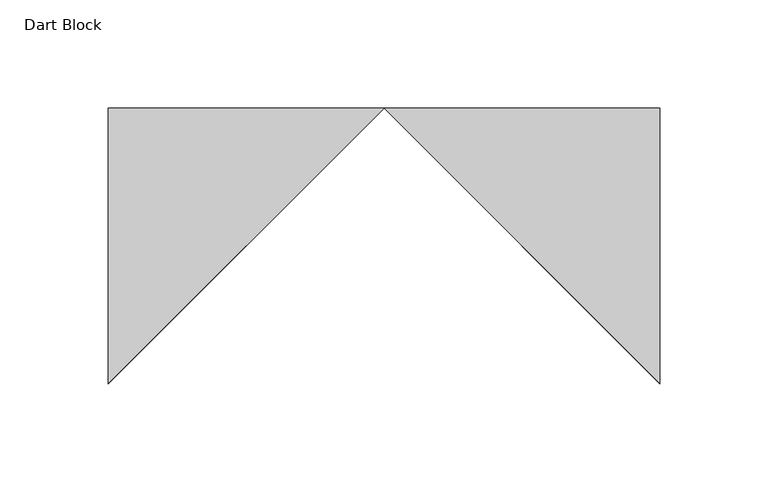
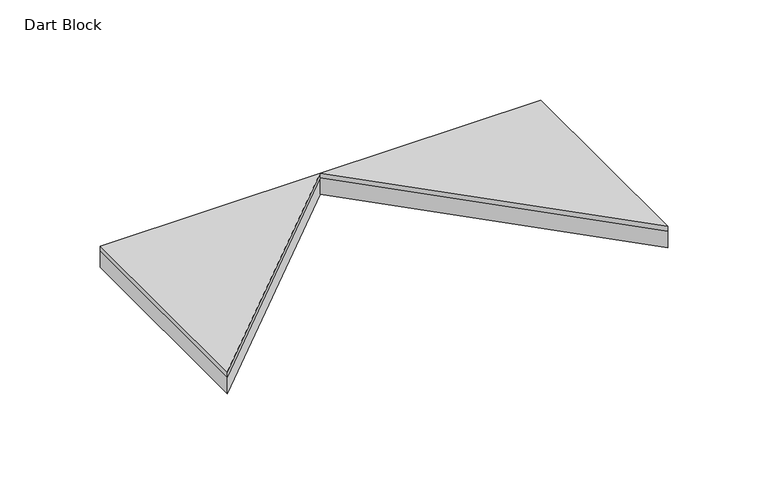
"""IFC4 building model written with IfcOpenShell, lengths in millimetres: proxy geometry, FilzFelt_Dart_Block : Dart Block."""

from ifc_helpers import new_model, si_unit, origin, place, context, project, spatial, faceted_brep, source, transform, mapped, element, save


def dart_block_84e837c1(model_context):
    return source(origin(), model_context, "Body", "Brep", [
        faceted_brep([(127.0, -190.5, 10.0210937), (0.0, -63.5, 10.0210937), (127.0, -63.5, 10.0210937), (-127.0, -190.5, 10.0210937), (-127.0, -63.5, 10.0210937), (-127.0, -190.5, 12.9976563), (0.0, -63.5, 12.9976563), (-127.0, -63.5, 12.9976563), (127.0, -190.5, 12.9976563), (127.0, -63.5, 12.9976563)], [[[0, 1, 2]], [[1, 3, 4]], [[5, 6, 7]], [[6, 8, 9]], [[8, 0, 2, 9]], [[1, 0, 8, 6]], [[3, 1, 6, 5]], [[3, 5, 7, 4]], [[2, 1, 4, 7, 6, 9]]]),
        faceted_brep([(127.0, -190.5, 0.0), (0.0, -63.5, 0.0), (127.0, -63.5, 0.0), (-127.0, -190.5, 0.0), (-127.0, -63.5, 0.0), (-127.0, -190.5, 10.0210937), (0.0, -63.5, 10.0210937), (-127.0, -63.5, 10.0210937), (127.0, -190.5, 10.0210937), (127.0, -63.5, 10.0210937)], [[[0, 1, 2]], [[1, 3, 4]], [[5, 6, 7]], [[6, 8, 9]], [[1, 0, 8, 6]], [[3, 1, 6, 5]], [[3, 5, 7, 4]], [[8, 0, 2, 9]], [[2, 1, 4, 7, 6, 9]]]),
    ])


if __name__ == "__main__":
    model = new_model("IFC4")
    model_context = context("Model", 3, world=origin())
    ifc_project = project(units=[si_unit("LENGTHUNIT", "METRE", prefix="MILLI")], contexts=[model_context])
    site = spatial("IfcSite", under=ifc_project)
    building = spatial("IfcBuilding", under=site)
    placement = place(None, origin())
    dart_block_shape = dart_block_84e837c1(model_context)
    element("IfcBuildingElementProxy", 1, Name="FilzFelt_Dart_Block : Dart Block", ObjectType="FilzFelt_Dart_Block : Dart Block", at=placement, inside=building, context=model_context, shape_type="MappedRepresentation", body=[
        mapped(dart_block_shape, transform((0.0, 0.0, 0.0), x_axis=(1.0, 0.0, 0.0), y_axis=(0.0, 1.0, 0.0), z_axis=(0.0, 0.0, 1.0))),
    ])
    save(model, "model.ifc")
